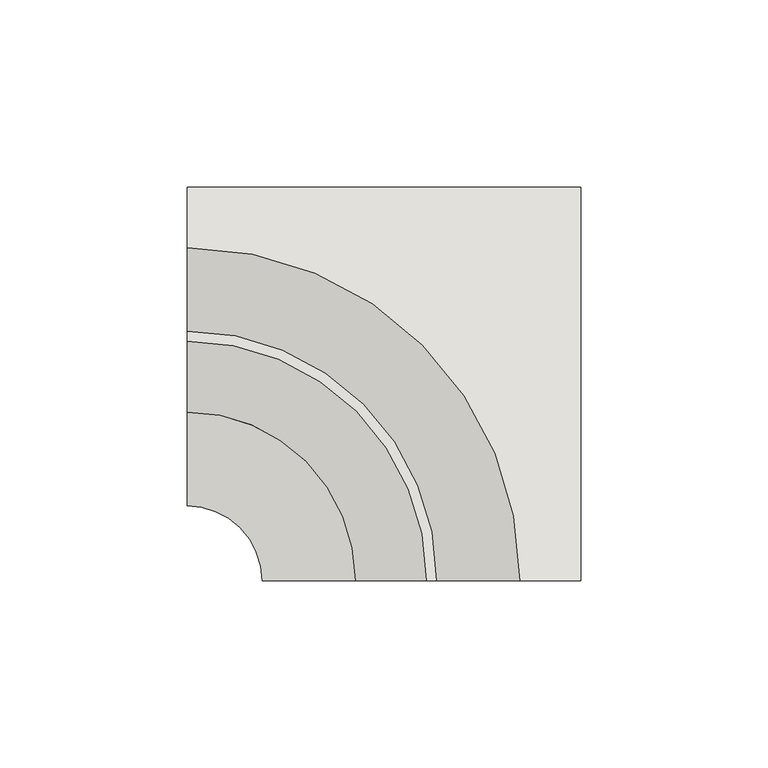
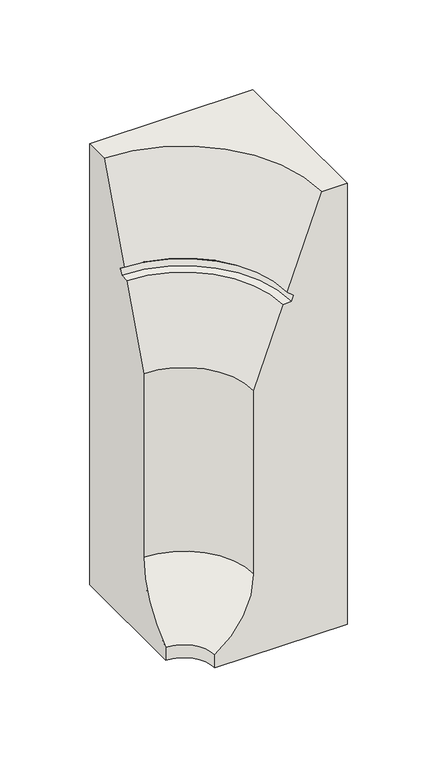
"""IFC4 building model written with IfcOpenShell, lengths in millimetres: wall geometry, GM_PC_UN_ACO kerb PB inside corner_ACO : PB H300 standard."""

from ifc_helpers import new_model, si_unit, frame, origin, place, context, project, spatial, polyline, circle_curve, source, transform, mapped, element, save
from ifc_brep_helpers import plane_surface, revolved_surface, spline_curve, advanced_brep


def wall_a8813c9a(model_context):
    return source(origin(), model_context, "Body", "AdvancedBrep", [
        advanced_brep(
        [(-105.0, -85.0, 8.9329844), (-105.0, -60.02016, 54.9904169), (-105.0, -60.02016, 180.0038512), (-105.0, -41.0897152, 231.6973826), (-105.0, -35.6304755, 232.1929291), (-105.0, -34.2965161, 236.00239), (-105.0, -38.3747848, 239.3170113), (-105.0, -16.191681, 300.0008401), (-105.0, 0.0, 300.0008401), (-105.0, 0.0, 0.0), (-105.0, -85.0, -0.0124899), (-85.0, -105.0, 8.9329844), (-85.0, -105.0, -0.0124899), (0.0, -105.0, -0.0124899), (0.0, -105.0, 300.0), (-16.191681, -105.0, 300.0008401), (-38.3747848, -105.0, 239.3170113), (-34.2965161, -105.0, 236.00239), (-35.6304755, -105.0, 232.1929291), (-41.0897152, -105.0, 231.6973826), (-60.02016, -105.0, 180.0038512), (-60.02016, -105.0, 54.9904169), (0.0, 0.0, 300.0), (0.0, 0.0, 0.0)],
        [
            (0, 1, spline_curve(3, [(-105.0, -85.0, 8.9329844), (-105.0, -69.4194957, 19.0724445), (-105.0, -60.0210198, 36.401179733), (-105.0, -60.02016, 54.9904169)], [4, 4], [0.0, 1.0])),
            (1, 2),
            (2, 3),
            (3, 4),
            (4, 5),
            (5, 6),
            (6, 7),
            (7, 8),
            (8, 9),
            (9, 10),
            (10, 0),
            (11, 12),
            (12, 13),
            (13, 14),
            (14, 15),
            (15, 16),
            (16, 17),
            (17, 18),
            (18, 19),
            (19, 20),
            (20, 21),
            (21, 11, spline_curve(3, [(-60.02016, -105.0, 54.9904169), (-60.0210198, -105.0, 36.401179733), (-69.4194957, -105.0, 19.0724445), (-85.0, -105.0, 8.9329844)], [4, 4], [0.0, 1.0])),
            (0, 11, circle_curve(frame((-105.0, -105.0, 8.9329844), z_axis=(0.0, 0.0, -1.0), x_axis=(0.0, 1.0, 0.0)), 20.0)),
            (21, 1, circle_curve(frame((-105.0, -105.0, 54.9904169), z_axis=(0.0, 0.0, 1.0), x_axis=(0.0, 1.0, 0.0)), 44.97984)),
            (5, 17, circle_curve(frame((-105.0, -105.0, 236.00239), z_axis=(0.0, 0.0, -1.0), x_axis=(0.0, 1.0, 0.0)), 70.7034839)),
            (16, 6, circle_curve(frame((-105.0, -105.0, 239.3170113), z_axis=(0.0, 0.0, 1.0), x_axis=(0.0, 1.0, 0.0)), 66.6252152)),
            (15, 7, circle_curve(frame((-105.0, -105.0, 300.0008401), z_axis=(0.0, 0.0, 1.0), x_axis=(0.0, 1.0, 0.0)), 88.808319)),
            (4, 18, circle_curve(frame((-105.0, -105.0, 232.1929291), z_axis=(0.0, 0.0, -1.0), x_axis=(0.0, 1.0, 0.0)), 69.3695245)),
            (3, 19, circle_curve(frame((-105.0, -105.0, 231.6973826), z_axis=(0.0, 0.0, -1.0), x_axis=(0.0, 1.0, 0.0)), 63.9102848)),
            (2, 20, circle_curve(frame((-105.0, -105.0, 180.0038512), z_axis=(0.0, 0.0, -1.0), x_axis=(0.0, 1.0, 0.0)), 44.97984)),
            (8, 22),
            (22, 23),
            (23, 9),
            (22, 14),
            (13, 23),
            (12, 10, circle_curve(frame((-105.0, -105.0, -0.0124899), z_axis=(0.0, 0.0, 1.0), x_axis=(0.0, 1.0, 0.0)), 20.0)),
        ],
        [
            plane_surface(frame((-105.0, 0.0, 0.0), z_axis=(-1.0, 0.0, 0.0), x_axis=(0.0, 0.0, 1.0))),
            plane_surface(frame((0.0, -105.0, 0.0), z_axis=(0.0, -1.0, 0.0), x_axis=(0.0, 0.0, 1.0))),
            revolved_surface(spline_curve(3, [(-105.0, -85.0, 8.9329844), (-105.0, -69.4194957, 19.0724445), (-105.0, -60.0210198, 36.401179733), (-105.0, -60.02016, 54.9904169)], [4, 4], [0.0, 1.0]), (-105.0, -105.0, 0.0), (0.0, 0.0, -1.0)),
            revolved_surface(polyline([(-105.0, -34.2965161, 236.00239), (-105.0, -38.3747848, 239.3170113)]), (-105.0, -105.0, 0.0), (0.0, 0.0, -1.0)),
            revolved_surface(polyline([(-105.0, -38.3747848, 239.3170113), (-105.0, -16.191681, 300.0008401)]), (-105.0, -105.0, 0.0), (0.0, 0.0, -1.0)),
            revolved_surface(polyline([(-105.0, -35.6304755, 232.1929291), (-105.0, -34.2965161, 236.00239)]), (-105.0, -105.0, 0.0), (0.0, 0.0, -1.0)),
            revolved_surface(polyline([(-105.0, -41.0897152, 231.6973826), (-105.0, -35.6304755, 232.1929291)]), (-105.0, -105.0, 0.0), (0.0, 0.0, -1.0)),
            revolved_surface(polyline([(-105.0, -60.02016, 180.0038512), (-105.0, -41.0897152, 231.6973826)]), (-105.0, -105.0, 0.0), (0.0, 0.0, -1.0)),
            revolved_surface(polyline([(-105.0, -60.02016, 54.9904169), (-105.0, -60.02016, 180.0038512)]), (-105.0, -105.0, 0.0), (0.0, 0.0, -1.0)),
            plane_surface(frame((0.0, 0.0, 300.0), z_axis=(0.0, 1.0, 0.0), x_axis=(0.0, 0.0, -1.0))),
            plane_surface(frame((0.0, -105.0, 300.0), z_axis=(1.0, 0.0, 0.0), x_axis=(0.0, 0.0, -1.0))),
            plane_surface(frame((-105.0, -105.0, 300.0008401), z_axis=(0.0, 0.0, 1.0), x_axis=(0.0, 1.0, 0.0))),
            plane_surface(frame((-105.0, -105.0, -0.0124899), z_axis=(0.0, 0.0, -1.0), x_axis=(0.0, 1.0, 0.0))),
            revolved_surface(polyline([(-105.0, -85.0, -0.0124899), (-105.0, -85.0, 8.9329844)]), (-105.0, -105.0, 0.0), (0.0, 0.0, -1.0)),
        ],
        [
            (0, [[1, 2, 3, 4, 5, 6, 7, 8, 9, 10, 11]]),
            (1, [[12, 13, 14, 15, 16, 17, 18, 19, 20, 21, 22]]),
            (2, [[-1, 23, -22, 24]]),
            (3, [[-6, 25, -17, 26]]),
            (4, [[-7, -26, -16, 27]]),
            (5, [[-5, 28, -18, -25]]),
            (6, [[-4, 29, -19, -28]]),
            (7, [[-3, 30, -20, -29]]),
            (8, [[-2, -24, -21, -30]]),
            (9, [[31, 32, 33, -9]]),
            (10, [[34, -14, 35, -32]]),
            (11, [[-8, -27, -15, -34, -31]]),
            (12, [[-10, -33, -35, -13, 36]]),
            (13, [[-11, -36, -12, -23]]),
        ],
    ),
    ])


if __name__ == "__main__":
    model = new_model("IFC4")
    model_context = context("Model", 3, world=origin())
    ifc_project = project(units=[si_unit("LENGTHUNIT", "METRE", prefix="MILLI")], contexts=[model_context])
    site = spatial("IfcSite", under=ifc_project)
    building = spatial("IfcBuilding", under=site)
    placement = place(None, origin())
    wall_shape = wall_a8813c9a(model_context)
    element("IfcWall", 1, ObjectType="GM_PC_UN_ACO kerb PB inside corner_ACO : PB H300 standard", at=placement, inside=building, context=model_context, shape_type="MappedRepresentation", body=[
        mapped(wall_shape, transform((0.0, 0.0, 0.0), x_axis=(1.0, 0.0, 0.0), y_axis=(0.0, 1.0, 0.0), z_axis=(0.0, 0.0, 1.0))),
    ])
    save(model, "model.ifc")
